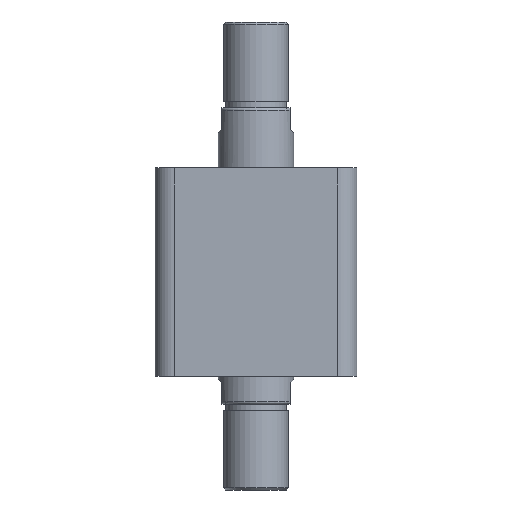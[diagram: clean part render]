
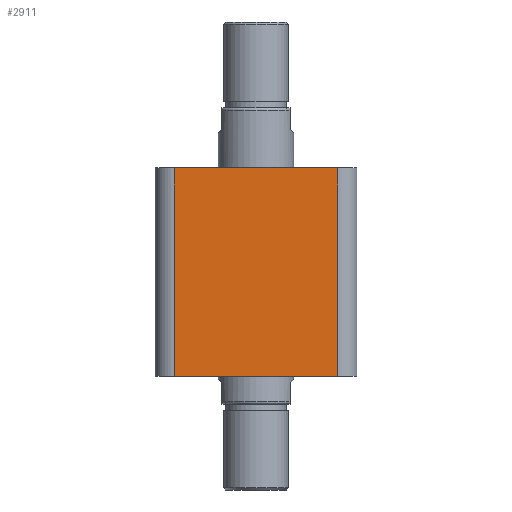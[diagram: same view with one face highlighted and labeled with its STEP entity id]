
A CAD part, front view. The second image highlights one B-rep face of the part: STEP entity #2911.
In plain terms, the highlighted planar face has unit normal (0, -1, 0).
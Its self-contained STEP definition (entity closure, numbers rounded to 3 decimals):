
#228 = AXIS2_PLACEMENT_3D ( 'NONE', #973, #977, #978 ) ;
#830 = CARTESIAN_POINT ( 'NONE',  ( 38., -47., 0. ) ) ;
#831 = CARTESIAN_POINT ( 'NONE',  ( -38., -47., 0. ) ) ;
#833 = CARTESIAN_POINT ( 'NONE',  ( 38., -47., 97. ) ) ;
#845 = CARTESIAN_POINT ( 'NONE',  ( -38., -47., 97. ) ) ;
#869 = CARTESIAN_POINT ( 'NONE',  ( -47., -47., 97. ) ) ;
#870 = DIRECTION ( 'NONE',  ( 1., 0., 0. ) ) ;
#871 = CARTESIAN_POINT ( 'NONE',  ( -47., -47., 0. ) ) ;
#872 = DIRECTION ( 'NONE',  ( 0., 0., -1. ) ) ;
#873 = CARTESIAN_POINT ( 'NONE',  ( -38., -47., 97. ) ) ;
#876 = DIRECTION ( 'NONE',  ( 1., 0., 0. ) ) ;
#877 = CARTESIAN_POINT ( 'NONE',  ( 38., -47., 97. ) ) ;
#879 = DIRECTION ( 'NONE',  ( 0., 0., 1. ) ) ;
#973 = CARTESIAN_POINT ( 'NONE',  ( -47., -47., 97. ) ) ;
#975 = PLANE ( 'NONE',  #228 ) ;
#977 = DIRECTION ( 'NONE',  ( 0., 1., 0. ) ) ;
#978 = DIRECTION ( 'NONE',  ( 0., 0., 1. ) ) ;
#1151 = LINE ( 'NONE', #869, #1160 ) ;
#1159 = LINE ( 'NONE', #871, #1165 ) ;
#1160 = VECTOR ( 'NONE', #870, 1000. ) ;
#1161 = LINE ( 'NONE', #873, #1163 ) ;
#1163 = VECTOR ( 'NONE', #872, 1000. ) ;
#1164 = LINE ( 'NONE', #877, #1167 ) ;
#1165 = VECTOR ( 'NONE', #876, 1000. ) ;
#1167 = VECTOR ( 'NONE', #879, 1000. ) ;
#1211 = FACE_OUTER_BOUND ( 'NONE', #3230, .T. ) ;
#2448 = VERTEX_POINT ( 'NONE', #830 ) ;
#2449 = VERTEX_POINT ( 'NONE', #831 ) ;
#2451 = VERTEX_POINT ( 'NONE', #833 ) ;
#2463 = VERTEX_POINT ( 'NONE', #845 ) ;
#2513 = ORIENTED_EDGE ( 'NONE', *, *, #2874, .T. ) ;
#2514 = ORIENTED_EDGE ( 'NONE', *, *, #2872, .T. ) ;
#2515 = ORIENTED_EDGE ( 'NONE', *, *, #2873, .T. ) ;
#2524 = ORIENTED_EDGE ( 'NONE', *, *, #2870, .F. ) ;
#2870 = EDGE_CURVE ( 'NONE', #2463, #2451, #1151, .T. ) ;
#2872 = EDGE_CURVE ( 'NONE', #2463, #2449, #1161, .T. ) ;
#2873 = EDGE_CURVE ( 'NONE', #2449, #2448, #1159, .T. ) ;
#2874 = EDGE_CURVE ( 'NONE', #2448, #2451, #1164, .T. ) ;
#2911 = ADVANCED_FACE ( 'NONE', ( #1211 ), #975, .F. ) ;
#3230 = EDGE_LOOP ( 'NONE', ( #2524, #2514, #2515, #2513 ) ) ;
